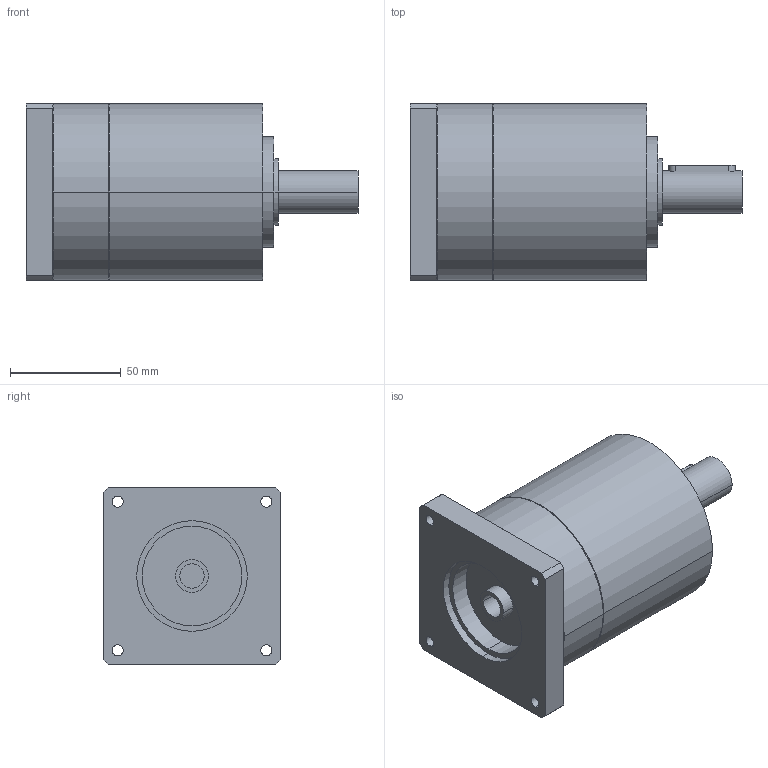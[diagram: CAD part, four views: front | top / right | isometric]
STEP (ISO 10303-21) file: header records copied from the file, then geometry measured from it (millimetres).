
FILE_DESCRIPTION(('CoCreate Modeling STEP Export'),'2;1');
FILE_NAME('GPR100_ig-3-4-5-6_19_B14_11_P21.stp','2014-08-26T10:01:51',(''),(''),'CoCreate Modeling STEP processor for AP214 (Solid Model)','CoCreate Modeling 16.00C 25-Feb-2009 (C) Parametric Technology GmbH','');
FILE_SCHEMA(('AUTOMOTIVE_DESIGN { 1 0 10303 214 1 1 1 1 }'));
Length unit declared in the file: millimetre
Products named in the file (2): GPR100_ig-3-4-5-6_19_B14_11_P21
Assembly tree (1 placements, depth 2):
  GPR100_ig-3-4-5-6_19_B14_11_P21
    GPR100_ig-3-4-5-6_19_B14_11_P21
Bounding box: 150 x 80 x 80 mm (x, y, z)
Volume: 551542.2 mm3; surface area: 48893.7 mm2
Topology: 1 solids, 1 shells, 70 faces, 186 edges, 130 vertices
Faces by surface type: cylinder 42, plane 22, cone 6
Entity records: 1929 total; most frequent: ORIENTED_EDGE 368, CARTESIAN_POINT 358, DIRECTION 262, EDGE_CURVE 184, VERTEX_POINT 130, AXIS2_PLACEMENT_3D 98, EDGE_LOOP 92, FACE_OUTER_BOUND 70
